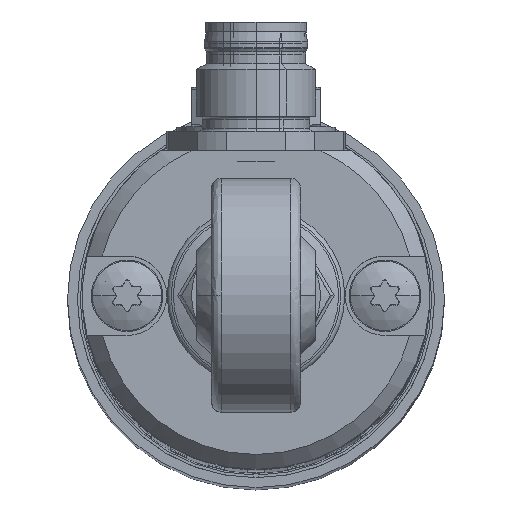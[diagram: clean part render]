
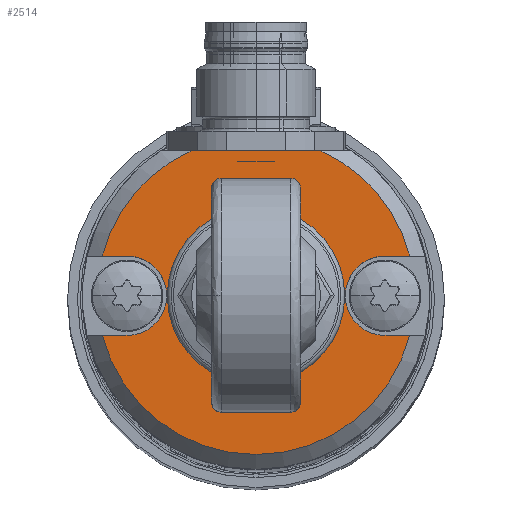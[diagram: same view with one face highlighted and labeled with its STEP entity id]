
A CAD part, top view. The second image highlights one B-rep face of the part: STEP entity #2514.
In plain terms, the highlighted planar face has unit normal (0, 0, 1).
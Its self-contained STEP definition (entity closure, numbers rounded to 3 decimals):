
#836 = CARTESIAN_POINT ( 'NONE',  ( 0., 4.3, 203.7 ) ) ;
#947 = CARTESIAN_POINT ( 'NONE',  ( 0., -4.3, 203.7 ) ) ;
#949 = DIRECTION ( 'NONE',  ( 0., -1., 0. ) ) ;
#950 = DIRECTION ( 'NONE',  ( 0., 0., 1. ) ) ;
#951 = CARTESIAN_POINT ( 'NONE',  ( 0., 0., 203.7 ) ) ;
#953 = AXIS2_PLACEMENT_3D ( 'NONE', #951, #950, #949 ) ;
#955 = CIRCLE ( 'NONE', #953, 4.3 ) ;
#2387 = VERTEX_POINT ( 'NONE', #836 ) ;
#2392 = EDGE_CURVE ( 'NONE', #2387, #2393, #955, .T. ) ;
#2393 = VERTEX_POINT ( 'NONE', #947 ) ;
#2463 = ORIENTED_EDGE ( 'NONE', *, *, #2464, .F. ) ;
#2464 = EDGE_CURVE ( 'NONE', #2465, #2607, #8221, .T. ) ;
#2465 = VERTEX_POINT ( 'NONE', #8216 ) ;
#2466 = ORIENTED_EDGE ( 'NONE', *, *, #2467, .T. ) ;
#2467 = EDGE_CURVE ( 'NONE', #2465, #2468, #8215, .T. ) ;
#2468 = VERTEX_POINT ( 'NONE', #8211 ) ;
#2469 = ORIENTED_EDGE ( 'NONE', *, *, #2565, .T. ) ;
#2471 = EDGE_LOOP ( 'NONE', ( #2472, #2475 ) ) ;
#2472 = ORIENTED_EDGE ( 'NONE', *, *, #2474, .F. ) ;
#2474 = EDGE_CURVE ( 'NONE', #2393, #2387, #8210, .T. ) ;
#2475 = ORIENTED_EDGE ( 'NONE', *, *, #2392, .F. ) ;
#2477 = EDGE_LOOP ( 'NONE', ( #2478, #2483, #2488, #2597, #2602, #2463, #2466, #2469, #2567, #2571 ) ) ;
#2478 = ORIENTED_EDGE ( 'NONE', *, *, #2479, .T. ) ;
#2479 = EDGE_CURVE ( 'NONE', #2480, #2481, #8205, .T. ) ;
#2480 = VERTEX_POINT ( 'NONE', #8201 ) ;
#2481 = VERTEX_POINT ( 'NONE', #8200 ) ;
#2483 = ORIENTED_EDGE ( 'NONE', *, *, #2484, .T. ) ;
#2484 = EDGE_CURVE ( 'NONE', #2481, #2486, #8199, .T. ) ;
#2486 = VERTEX_POINT ( 'NONE', #8194 ) ;
#2488 = ORIENTED_EDGE ( 'NONE', *, *, #2490, .T. ) ;
#2490 = EDGE_CURVE ( 'NONE', #2486, #2492, #8193, .T. ) ;
#2492 = VERTEX_POINT ( 'NONE', #8189 ) ;
#2514 = ADVANCED_FACE ( 'NONE', ( #8236, #8235 ), #8275, .F. ) ;
#2565 = EDGE_CURVE ( 'NONE', #2468, #2566, #8314, .T. ) ;
#2566 = VERTEX_POINT ( 'NONE', #8315 ) ;
#2567 = ORIENTED_EDGE ( 'NONE', *, *, #2568, .F. ) ;
#2568 = EDGE_CURVE ( 'NONE', #2570, #2566, #8360, .T. ) ;
#2570 = VERTEX_POINT ( 'NONE', #8356 ) ;
#2571 = ORIENTED_EDGE ( 'NONE', *, *, #2573, .F. ) ;
#2573 = EDGE_CURVE ( 'NONE', #2480, #2570, #8354, .T. ) ;
#2597 = ORIENTED_EDGE ( 'NONE', *, *, #2598, .T. ) ;
#2598 = EDGE_CURVE ( 'NONE', #2492, #2599, #8388, .T. ) ;
#2599 = VERTEX_POINT ( 'NONE', #8383 ) ;
#2602 = ORIENTED_EDGE ( 'NONE', *, *, #2604, .F. ) ;
#2604 = EDGE_CURVE ( 'NONE', #2607, #2599, #8382, .T. ) ;
#2607 = VERTEX_POINT ( 'NONE', #8378 ) ;
#8189 = CARTESIAN_POINT ( 'NONE',  ( -6.545, 14.6, 203.7 ) ) ;
#8190 = DIRECTION ( 'NONE',  ( -1., 0., 0. ) ) ;
#8191 = VECTOR ( 'NONE', #8190, 1000. ) ;
#8192 = CARTESIAN_POINT ( 'NONE',  ( 0., 14.6, 203.7 ) ) ;
#8193 = LINE ( 'NONE', #8192, #8191 ) ;
#8194 = CARTESIAN_POINT ( 'NONE',  ( 6.545, 14.6, 203.7 ) ) ;
#8195 = DIRECTION ( 'NONE',  ( 0., 1., 0. ) ) ;
#8196 = DIRECTION ( 'NONE',  ( 0., 0., 1. ) ) ;
#8197 = CARTESIAN_POINT ( 'NONE',  ( 0., 0., 203.7 ) ) ;
#8198 = AXIS2_PLACEMENT_3D ( 'NONE', #8197, #8196, #8195 ) ;
#8199 = CIRCLE ( 'NONE', #8198, 16. ) ;
#8200 = CARTESIAN_POINT ( 'NONE',  ( 15.492, 4., 203.7 ) ) ;
#8201 = CARTESIAN_POINT ( 'NONE',  ( 13., 4., 203.7 ) ) ;
#8202 = DIRECTION ( 'NONE',  ( 1., 0., 0. ) ) ;
#8203 = VECTOR ( 'NONE', #8202, 1000. ) ;
#8204 = CARTESIAN_POINT ( 'NONE',  ( 0., 4., 203.7 ) ) ;
#8205 = LINE ( 'NONE', #8204, #8203 ) ;
#8206 = DIRECTION ( 'NONE',  ( 0., -1., 0. ) ) ;
#8207 = DIRECTION ( 'NONE',  ( 0., 0., 1. ) ) ;
#8208 = CARTESIAN_POINT ( 'NONE',  ( 0., 0., 203.7 ) ) ;
#8209 = AXIS2_PLACEMENT_3D ( 'NONE', #8208, #8207, #8206 ) ;
#8210 = CIRCLE ( 'NONE', #8209, 4.3 ) ;
#8211 = CARTESIAN_POINT ( 'NONE',  ( -15.492, -4., 203.7 ) ) ;
#8212 = DIRECTION ( 'NONE',  ( -1., 0., 0. ) ) ;
#8213 = VECTOR ( 'NONE', #8212, 1000. ) ;
#8214 = CARTESIAN_POINT ( 'NONE',  ( 0., -4., 203.7 ) ) ;
#8215 = LINE ( 'NONE', #8214, #8213 ) ;
#8216 = CARTESIAN_POINT ( 'NONE',  ( -13., -4., 203.7 ) ) ;
#8217 = DIRECTION ( 'NONE',  ( 0., -1., 0. ) ) ;
#8218 = DIRECTION ( 'NONE',  ( 0., 0., 1. ) ) ;
#8219 = CARTESIAN_POINT ( 'NONE',  ( -13., 0., 203.7 ) ) ;
#8220 = AXIS2_PLACEMENT_3D ( 'NONE', #8219, #8218, #8217 ) ;
#8221 = CIRCLE ( 'NONE', #8220, 4. ) ;
#8235 = FACE_OUTER_BOUND ( 'NONE', #2477, .T. ) ;
#8236 = FACE_BOUND ( 'NONE', #2471, .T. ) ;
#8271 = DIRECTION ( 'NONE',  ( 0., 1., 0. ) ) ;
#8272 = DIRECTION ( 'NONE',  ( 0., 0., -1. ) ) ;
#8273 = CARTESIAN_POINT ( 'NONE',  ( 0., 0., 203.7 ) ) ;
#8274 = AXIS2_PLACEMENT_3D ( 'NONE', #8273, #8272, #8271 ) ;
#8275 = PLANE ( 'NONE',  #8274 ) ;
#8311 = DIRECTION ( 'NONE',  ( 0., 1., 0. ) ) ;
#8312 = DIRECTION ( 'NONE',  ( 0., 0., 1. ) ) ;
#8313 = AXIS2_PLACEMENT_3D ( 'NONE', #8320, #8312, #8311 ) ;
#8314 = CIRCLE ( 'NONE', #8313, 16. ) ;
#8315 = CARTESIAN_POINT ( 'NONE',  ( 15.492, -4., 203.7 ) ) ;
#8320 = CARTESIAN_POINT ( 'NONE',  ( 0., 0., 203.7 ) ) ;
#8350 = DIRECTION ( 'NONE',  ( 0., -1., 0. ) ) ;
#8351 = DIRECTION ( 'NONE',  ( 0., 0., 1. ) ) ;
#8352 = CARTESIAN_POINT ( 'NONE',  ( 13., 0., 203.7 ) ) ;
#8353 = AXIS2_PLACEMENT_3D ( 'NONE', #8352, #8351, #8350 ) ;
#8354 = CIRCLE ( 'NONE', #8353, 4. ) ;
#8356 = CARTESIAN_POINT ( 'NONE',  ( 13., -4., 203.7 ) ) ;
#8357 = DIRECTION ( 'NONE',  ( 1., 0., 0. ) ) ;
#8358 = VECTOR ( 'NONE', #8357, 1000. ) ;
#8359 = CARTESIAN_POINT ( 'NONE',  ( 13., -4., 203.7 ) ) ;
#8360 = LINE ( 'NONE', #8359, #8358 ) ;
#8378 = CARTESIAN_POINT ( 'NONE',  ( -13., 4., 203.7 ) ) ;
#8379 = DIRECTION ( 'NONE',  ( -1., 0., 0. ) ) ;
#8380 = VECTOR ( 'NONE', #8379, 1000. ) ;
#8381 = CARTESIAN_POINT ( 'NONE',  ( -20., 4., 203.7 ) ) ;
#8382 = LINE ( 'NONE', #8381, #8380 ) ;
#8383 = CARTESIAN_POINT ( 'NONE',  ( -15.492, 4., 203.7 ) ) ;
#8384 = DIRECTION ( 'NONE',  ( 0., 1., 0. ) ) ;
#8385 = DIRECTION ( 'NONE',  ( 0., 0., 1. ) ) ;
#8386 = CARTESIAN_POINT ( 'NONE',  ( 0., 0., 203.7 ) ) ;
#8387 = AXIS2_PLACEMENT_3D ( 'NONE', #8386, #8385, #8384 ) ;
#8388 = CIRCLE ( 'NONE', #8387, 16. ) ;
